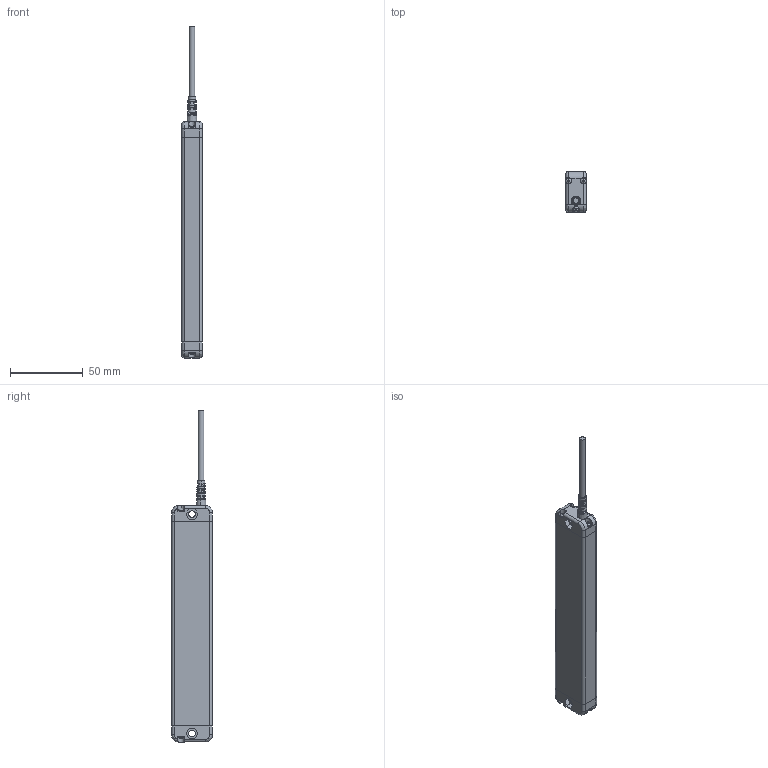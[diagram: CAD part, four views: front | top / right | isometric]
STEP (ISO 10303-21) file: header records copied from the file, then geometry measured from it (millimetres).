
FILE_DESCRIPTION (( 'STEP AP214' ), '1' );
FILE_NAME ('PG3-10RT-8.STEP', '2025-08-19T06:40:26', ( 'Windows User' ), ( 'P R C' ), 'SwSTEP 2.0', 'SolidWorks 2023', '' );
FILE_SCHEMA (( 'AUTOMOTIVE_DESIGN' ));
Length unit declared in the file: millimetre
Products named in the file (3): PG3-10-30; PG3-10RT-8; PG3后端盖
Assembly tree (2 placements, depth 2):
  PG3-10RT-8
    PG3-10-30
    PG3后端盖
Bounding box: 14 x 28 x 227.51 mm (x, y, z)
Volume: 61543.4 mm3; surface area: 17358 mm2
Topology: 6 solids, 6 shells, 334 faces, 882 edges, 578 vertices
Faces by surface type: plane 183, cylinder 110, bspline 22, cone 19
Entity records: 11747 total; most frequent: CARTESIAN_POINT 3752, ORIENTED_EDGE 1764, DIRECTION 1504, EDGE_CURVE 882, VERTEX_POINT 578, AXIS2_PLACEMENT_3D 546, LINE 412, VECTOR 412
